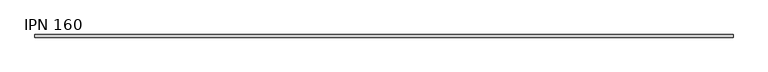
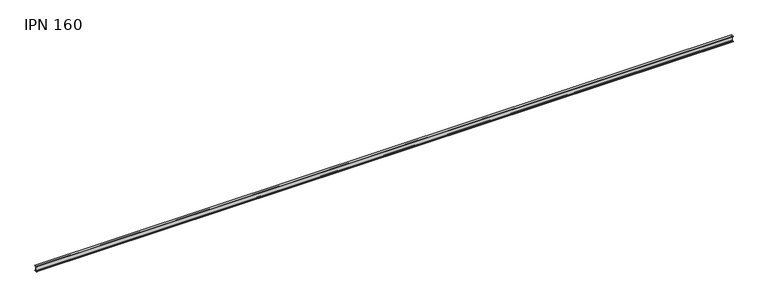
"""IFC4 building model written with IfcOpenShell, lengths in millimetres: beam geometry, IPN - Secciones en I con alas cónicas : IPN 160."""

from ifc_helpers import new_model, si_unit, point, frame, frame_2d, origin, place, context, project, spatial, polyline, circle_curve, trimmed, segment, composite_curve, outline, extrude, source, transform, mapped, element, save


def ipn_160_89f4914c(model_context):
    return source(origin(), model_context, "Body", "SweptSolid", [
        extrude(outline(composite_curve([segment(polyline([(37.0, 80.0), (37.0, 76.3950593)]), True, "CONTINUOUS"), segment(trimmed(circle_curve(frame_2d((33.2, 76.3950593)), 3.8), [point((37.0, 76.3950593))], [point((33.7268618, 72.6317607))], False, "CARTESIAN"), True, "CONTINUOUS"), segment(polyline([(33.7268618, 72.6317607), (8.5765186, 69.1107126)]), True, "CONTINUOUS"), segment(trimmed(circle_curve(frame_2d((9.45, 62.8715596)), 6.3), [point((8.5765186, 69.1107126))], [point((3.15, 62.8715596))], True, "CARTESIAN"), True, "CONTINUOUS"), segment(polyline([(3.15, 62.8715596), (3.15, -62.8715596)]), True, "CONTINUOUS"), segment(trimmed(circle_curve(frame_2d((9.45, -62.8715596)), 6.3), [point((3.15, -62.8715596))], [point((8.5765186, -69.1107126))], True, "CARTESIAN"), True, "CONTINUOUS"), segment(polyline([(8.5765186, -69.1107126), (33.7268618, -72.6317607)]), True, "CONTINUOUS"), segment(trimmed(circle_curve(frame_2d((33.2, -76.3950593)), 3.8), [point((33.7268618, -72.6317607))], [point((37.0, -76.3950593))], False, "CARTESIAN"), True, "CONTINUOUS"), segment(polyline([(37.0, -76.3950593), (37.0, -80.0), (-37.0, -80.0), (-37.0, -76.3950593)]), True, "CONTINUOUS"), segment(trimmed(circle_curve(frame_2d((-33.2, -76.3950593)), 3.8), [point((-37.0, -76.3950593))], [point((-33.7268618, -72.6317607))], False, "CARTESIAN"), True, "CONTINUOUS"), segment(polyline([(-33.7268618, -72.6317607), (-8.5765186, -69.1107126)]), True, "CONTINUOUS"), segment(trimmed(circle_curve(frame_2d((-9.45, -62.8715596)), 6.3), [point((-8.5765186, -69.1107126))], [point((-3.15, -62.8715596))], True, "CARTESIAN"), True, "CONTINUOUS"), segment(polyline([(-3.15, -62.8715596), (-3.15, 62.8715596)]), True, "CONTINUOUS"), segment(trimmed(circle_curve(frame_2d((-9.45, 62.8715596)), 6.3), [point((-3.15, 62.8715596))], [point((-8.5765186, 69.1107126))], True, "CARTESIAN"), True, "CONTINUOUS"), segment(polyline([(-8.5765186, 69.1107126), (-33.7268618, 72.6317607)]), True, "CONTINUOUS"), segment(trimmed(circle_curve(frame_2d((-33.2, 76.3950593)), 3.8), [point((-33.7268618, 72.6317607))], [point((-37.0, 76.3950593))], False, "CARTESIAN"), True, "CONTINUOUS"), segment(polyline([(-37.0, 76.3950593), (-37.0, 80.0), (37.0, 80.0)]), True, "CONTINUOUS")], self_intersect=False)), frame((-9803.5, 0.0, 0.0), z_axis=(1.0, 0.0, 0.0), x_axis=(0.0, 1.0, 0.0)), (0.0, 0.0, 1.0), 19607.0),
    ])


if __name__ == "__main__":
    model = new_model("IFC4")
    model_context = context("Model", 3, world=origin())
    ifc_project = project(units=[si_unit("LENGTHUNIT", "METRE", prefix="MILLI")], contexts=[model_context])
    site = spatial("IfcSite", under=ifc_project)
    building = spatial("IfcBuilding", under=site)
    placement = place(None, origin())
    ipn_160_shape = ipn_160_89f4914c(model_context)
    element("IfcBeam", 1, ObjectType="IPN - Secciones en I con alas cónicas : IPN 160", at=placement, inside=building, context=model_context, shape_type="MappedRepresentation", body=[
        mapped(ipn_160_shape, transform((0.0, 0.0, 0.0), x_axis=(1.0, 0.0, 0.0), y_axis=(0.0, 1.0, 0.0), z_axis=(0.0, 0.0, 1.0))),
    ])
    save(model, "model.ifc")
